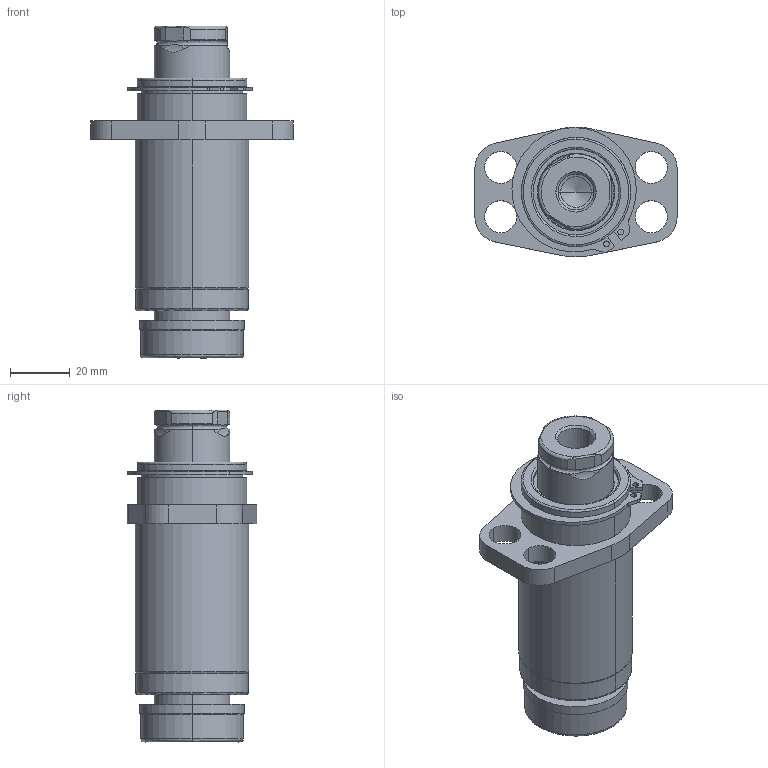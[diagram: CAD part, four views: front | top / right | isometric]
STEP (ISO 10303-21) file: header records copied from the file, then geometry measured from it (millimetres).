
FILE_DESCRIPTION (( 'STEP AP214' ), '1' );
FILE_NAME ('GK105-L3-M-XXX.STEP', '2020-09-21T14:54:21', ( '' ), ( '' ), 'SwSTEP 2.0', 'SolidWorks 2017', '' );
FILE_SCHEMA (( 'AUTOMOTIVE_DESIGN' ));
Length unit declared in the file: inch
Products named in the file (7): RetainingRing-GK1.00-L-M; GK1.00-L3-M-Base; GK105-M-XXX-GuidePin; GK105-L3-M-XXX; GK105-DampeningWasher
Assembly tree (6 placements, depth 3):
  GK105-L3-M-XXX
    GK1.00-L3-M-Base
      GK1.00-L3-M-Base
      RetainingRing-GK1.00-L-M
    GK105-M-XXX-GuidePin
      GK105-M-XXX-GuidePin
      GK105-DampeningWasher
Bounding box: 67.73 x 43.49 x 111.12 mm (x, y, z)
Volume: 111335.8 mm3; surface area: 34874.9 mm2
Topology: 4 solids, 4 shells, 142 faces, 360 edges, 231 vertices
Faces by surface type: cylinder 67, plane 38, bspline 23, cone 14
Entity records: 5556 total; most frequent: CARTESIAN_POINT 1772, ORIENTED_EDGE 716, DIRECTION 701, EDGE_CURVE 358, AXIS2_PLACEMENT_3D 286, VERTEX_POINT 231, EDGE_LOOP 165, CIRCLE 156
